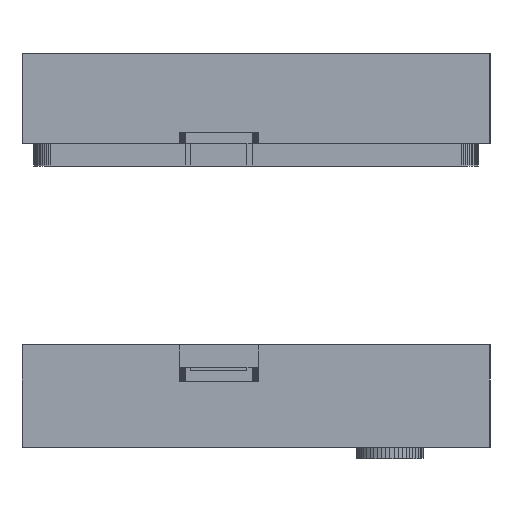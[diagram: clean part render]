
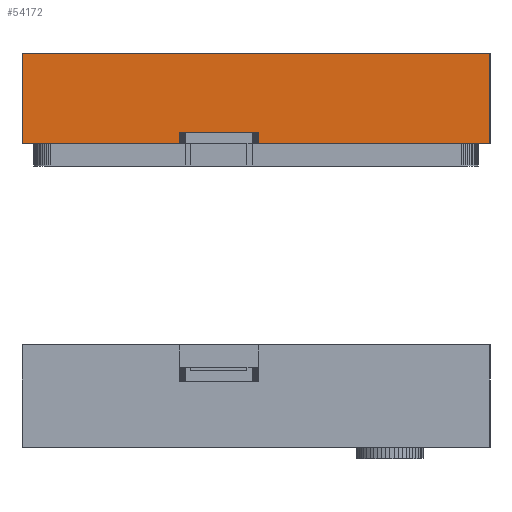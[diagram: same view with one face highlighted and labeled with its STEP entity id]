
A CAD part, left-side view. The second image highlights one B-rep face of the part: STEP entity #54172.
In plain terms, the highlighted planar face has unit normal (-1, 0, 0).
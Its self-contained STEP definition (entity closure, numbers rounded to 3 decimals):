
#54172 = ADVANCED_FACE('',(#54173),#54187,.F.);
#54173 = FACE_BOUND('',#54174,.F.);
#54174 = EDGE_LOOP('',(#54175,#54210,#54238,#54264,#54290,#54316,#54339,
    #54367));
#54175 = ORIENTED_EDGE('',*,*,#54176,.F.);
#54176 = EDGE_CURVE('',#54177,#54179,#54181,.T.);
#54177 = VERTEX_POINT('',#54178);
#54178 = CARTESIAN_POINT('',(0.,0.,54.));
#54179 = VERTEX_POINT('',#54180);
#54180 = CARTESIAN_POINT('',(0.,0.,70.));
#54181 = SURFACE_CURVE('',#54182,(#54186,#54198),.PCURVE_S1.);
#54182 = LINE('',#54183,#54184);
#54183 = CARTESIAN_POINT('',(0.,0.,50.));
#54184 = VECTOR('',#54185,1.);
#54185 = DIRECTION('',(0.,0.,1.));
#54186 = PCURVE('',#54187,#54192);
#54187 = PLANE('',#54188);
#54188 = AXIS2_PLACEMENT_3D('',#54189,#54190,#54191);
#54189 = CARTESIAN_POINT('',(0.,0.,50.));
#54190 = DIRECTION('',(1.,0.,0.));
#54191 = DIRECTION('',(0.,0.,1.));
#54192 = DEFINITIONAL_REPRESENTATION('',(#54193),#54197);
#54193 = LINE('',#54194,#54195);
#54194 = CARTESIAN_POINT('',(0.,0.));
#54195 = VECTOR('',#54196,1.);
#54196 = DIRECTION('',(1.,0.));
#54197 = ( GEOMETRIC_REPRESENTATION_CONTEXT(2) 
PARAMETRIC_REPRESENTATION_CONTEXT() REPRESENTATION_CONTEXT('2D SPACE',''
  ) );
#54198 = PCURVE('',#54199,#54204);
#54199 = PLANE('',#54200);
#54200 = AXIS2_PLACEMENT_3D('',#54201,#54202,#54203);
#54201 = CARTESIAN_POINT('',(0.,0.,50.));
#54202 = DIRECTION('',(0.,1.,0.));
#54203 = DIRECTION('',(0.,0.,1.));
#54204 = DEFINITIONAL_REPRESENTATION('',(#54205),#54209);
#54205 = LINE('',#54206,#54207);
#54206 = CARTESIAN_POINT('',(0.,0.));
#54207 = VECTOR('',#54208,1.);
#54208 = DIRECTION('',(1.,0.));
#54209 = ( GEOMETRIC_REPRESENTATION_CONTEXT(2) 
PARAMETRIC_REPRESENTATION_CONTEXT() REPRESENTATION_CONTEXT('2D SPACE',''
  ) );
#54210 = ORIENTED_EDGE('',*,*,#54211,.T.);
#54211 = EDGE_CURVE('',#54177,#54212,#54214,.T.);
#54212 = VERTEX_POINT('',#54213);
#54213 = CARTESIAN_POINT('',(0.,41.202,54.));
#54214 = SURFACE_CURVE('',#54215,(#54219,#54226),.PCURVE_S1.);
#54215 = LINE('',#54216,#54217);
#54216 = CARTESIAN_POINT('',(0.,0.,54.));
#54217 = VECTOR('',#54218,1.);
#54218 = DIRECTION('',(0.,1.,0.));
#54219 = PCURVE('',#54187,#54220);
#54220 = DEFINITIONAL_REPRESENTATION('',(#54221),#54225);
#54221 = LINE('',#54222,#54223);
#54222 = CARTESIAN_POINT('',(4.,0.));
#54223 = VECTOR('',#54224,1.);
#54224 = DIRECTION('',(0.,-1.));
#54225 = ( GEOMETRIC_REPRESENTATION_CONTEXT(2) 
PARAMETRIC_REPRESENTATION_CONTEXT() REPRESENTATION_CONTEXT('2D SPACE',''
  ) );
#54226 = PCURVE('',#54227,#54232);
#54227 = PLANE('',#54228);
#54228 = AXIS2_PLACEMENT_3D('',#54229,#54230,#54231);
#54229 = CARTESIAN_POINT('',(0.,0.,54.));
#54230 = DIRECTION('',(0.,0.,1.));
#54231 = DIRECTION('',(1.,0.,0.));
#54232 = DEFINITIONAL_REPRESENTATION('',(#54233),#54237);
#54233 = LINE('',#54234,#54235);
#54234 = CARTESIAN_POINT('',(0.,0.));
#54235 = VECTOR('',#54236,1.);
#54236 = DIRECTION('',(0.,1.));
#54237 = ( GEOMETRIC_REPRESENTATION_CONTEXT(2) 
PARAMETRIC_REPRESENTATION_CONTEXT() REPRESENTATION_CONTEXT('2D SPACE',''
  ) );
#54238 = ORIENTED_EDGE('',*,*,#54239,.T.);
#54239 = EDGE_CURVE('',#54212,#54240,#54242,.T.);
#54240 = VERTEX_POINT('',#54241);
#54241 = CARTESIAN_POINT('',(0.,41.202,56.));
#54242 = SURFACE_CURVE('',#54243,(#54247,#54253),.PCURVE_S1.);
#54243 = LINE('',#54244,#54245);
#54244 = CARTESIAN_POINT('',(0.,41.202,53.));
#54245 = VECTOR('',#54246,1.);
#54246 = DIRECTION('',(0.,0.,1.));
#54247 = PCURVE('',#54187,#54248);
#54248 = DEFINITIONAL_REPRESENTATION('',(#54249),#54252);
#54249 = B_SPLINE_CURVE_WITH_KNOTS('',1,(#54250,#54251),.UNSPECIFIED.,
  .F.,.F.,(2,2),(-3.6,3.6),.PIECEWISE_BEZIER_KNOTS.);
#54250 = CARTESIAN_POINT('',(-0.6,-41.202));
#54251 = CARTESIAN_POINT('',(6.6,-41.202));
#54252 = ( GEOMETRIC_REPRESENTATION_CONTEXT(2) 
PARAMETRIC_REPRESENTATION_CONTEXT() REPRESENTATION_CONTEXT('2D SPACE',''
  ) );
#54253 = PCURVE('',#54254,#54259);
#54254 = PLANE('',#54255);
#54255 = AXIS2_PLACEMENT_3D('',#54256,#54257,#54258);
#54256 = CARTESIAN_POINT('',(1.163,41.202,56.));
#54257 = DIRECTION('',(0.,1.,0.));
#54258 = DIRECTION('',(0.,0.,1.));
#54259 = DEFINITIONAL_REPRESENTATION('',(#54260),#54263);
#54260 = B_SPLINE_CURVE_WITH_KNOTS('',1,(#54261,#54262),.UNSPECIFIED.,
  .F.,.F.,(2,2),(-3.6,3.6),.PIECEWISE_BEZIER_KNOTS.);
#54261 = CARTESIAN_POINT('',(-6.6,-1.163));
#54262 = CARTESIAN_POINT('',(0.6,-1.163));
#54263 = ( GEOMETRIC_REPRESENTATION_CONTEXT(2) 
PARAMETRIC_REPRESENTATION_CONTEXT() REPRESENTATION_CONTEXT('2D SPACE',''
  ) );
#54264 = ORIENTED_EDGE('',*,*,#54265,.T.);
#54265 = EDGE_CURVE('',#54240,#54266,#54268,.T.);
#54266 = VERTEX_POINT('',#54267);
#54267 = CARTESIAN_POINT('',(0.,55.198,56.));
#54268 = SURFACE_CURVE('',#54269,(#54273,#54279),.PCURVE_S1.);
#54269 = LINE('',#54270,#54271);
#54270 = CARTESIAN_POINT('',(0.,20.715,56.));
#54271 = VECTOR('',#54272,1.);
#54272 = DIRECTION('',(0.,1.,0.));
#54273 = PCURVE('',#54187,#54274);
#54274 = DEFINITIONAL_REPRESENTATION('',(#54275),#54278);
#54275 = B_SPLINE_CURVE_WITH_KNOTS('',1,(#54276,#54277),.UNSPECIFIED.,
  .F.,.F.,(2,2),(19.088,35.883),
  .PIECEWISE_BEZIER_KNOTS.);
#54276 = CARTESIAN_POINT('',(6.,-39.802));
#54277 = CARTESIAN_POINT('',(6.,-56.598));
#54278 = ( GEOMETRIC_REPRESENTATION_CONTEXT(2) 
PARAMETRIC_REPRESENTATION_CONTEXT() REPRESENTATION_CONTEXT('2D SPACE',''
  ) );
#54279 = PCURVE('',#54280,#54285);
#54280 = PLANE('',#54281);
#54281 = AXIS2_PLACEMENT_3D('',#54282,#54283,#54284);
#54282 = CARTESIAN_POINT('',(-1.737,41.429,56.));
#54283 = DIRECTION('',(0.,0.,-1.));
#54284 = DIRECTION('',(-1.,0.,0.));
#54285 = DEFINITIONAL_REPRESENTATION('',(#54286),#54289);
#54286 = B_SPLINE_CURVE_WITH_KNOTS('',1,(#54287,#54288),.UNSPECIFIED.,
  .F.,.F.,(2,2),(19.088,35.883),
  .PIECEWISE_BEZIER_KNOTS.);
#54287 = CARTESIAN_POINT('',(-1.737,-1.627));
#54288 = CARTESIAN_POINT('',(-1.737,15.168));
#54289 = ( GEOMETRIC_REPRESENTATION_CONTEXT(2) 
PARAMETRIC_REPRESENTATION_CONTEXT() REPRESENTATION_CONTEXT('2D SPACE',''
  ) );
#54290 = ORIENTED_EDGE('',*,*,#54291,.T.);
#54291 = EDGE_CURVE('',#54266,#54292,#54294,.T.);
#54292 = VERTEX_POINT('',#54293);
#54293 = CARTESIAN_POINT('',(0.,55.198,54.));
#54294 = SURFACE_CURVE('',#54295,(#54299,#54305),.PCURVE_S1.);
#54295 = LINE('',#54296,#54297);
#54296 = CARTESIAN_POINT('',(0.,55.198,53.));
#54297 = VECTOR('',#54298,1.);
#54298 = DIRECTION('',(0.,0.,-1.));
#54299 = PCURVE('',#54187,#54300);
#54300 = DEFINITIONAL_REPRESENTATION('',(#54301),#54304);
#54301 = B_SPLINE_CURVE_WITH_KNOTS('',1,(#54302,#54303),.UNSPECIFIED.,
  .F.,.F.,(2,2),(-3.6,3.6),.PIECEWISE_BEZIER_KNOTS.);
#54302 = CARTESIAN_POINT('',(6.6,-55.198));
#54303 = CARTESIAN_POINT('',(-0.6,-55.198));
#54304 = ( GEOMETRIC_REPRESENTATION_CONTEXT(2) 
PARAMETRIC_REPRESENTATION_CONTEXT() REPRESENTATION_CONTEXT('2D SPACE',''
  ) );
#54305 = PCURVE('',#54306,#54311);
#54306 = PLANE('',#54307);
#54307 = AXIS2_PLACEMENT_3D('',#54308,#54309,#54310);
#54308 = CARTESIAN_POINT('',(1.163,55.198,56.));
#54309 = DIRECTION('',(0.,-1.,0.));
#54310 = DIRECTION('',(0.,0.,-1.));
#54311 = DEFINITIONAL_REPRESENTATION('',(#54312),#54315);
#54312 = B_SPLINE_CURVE_WITH_KNOTS('',1,(#54313,#54314),.UNSPECIFIED.,
  .F.,.F.,(2,2),(-3.6,3.6),.PIECEWISE_BEZIER_KNOTS.);
#54313 = CARTESIAN_POINT('',(-0.6,-1.163));
#54314 = CARTESIAN_POINT('',(6.6,-1.163));
#54315 = ( GEOMETRIC_REPRESENTATION_CONTEXT(2) 
PARAMETRIC_REPRESENTATION_CONTEXT() REPRESENTATION_CONTEXT('2D SPACE',''
  ) );
#54316 = ORIENTED_EDGE('',*,*,#54317,.T.);
#54317 = EDGE_CURVE('',#54292,#54318,#54320,.T.);
#54318 = VERTEX_POINT('',#54319);
#54319 = CARTESIAN_POINT('',(0.,83.2,54.));
#54320 = SURFACE_CURVE('',#54321,(#54325,#54332),.PCURVE_S1.);
#54321 = LINE('',#54322,#54323);
#54322 = CARTESIAN_POINT('',(0.,0.,54.));
#54323 = VECTOR('',#54324,1.);
#54324 = DIRECTION('',(0.,1.,0.));
#54325 = PCURVE('',#54187,#54326);
#54326 = DEFINITIONAL_REPRESENTATION('',(#54327),#54331);
#54327 = LINE('',#54328,#54329);
#54328 = CARTESIAN_POINT('',(4.,0.));
#54329 = VECTOR('',#54330,1.);
#54330 = DIRECTION('',(0.,-1.));
#54331 = ( GEOMETRIC_REPRESENTATION_CONTEXT(2) 
PARAMETRIC_REPRESENTATION_CONTEXT() REPRESENTATION_CONTEXT('2D SPACE',''
  ) );
#54332 = PCURVE('',#54227,#54333);
#54333 = DEFINITIONAL_REPRESENTATION('',(#54334),#54338);
#54334 = LINE('',#54335,#54336);
#54335 = CARTESIAN_POINT('',(0.,0.));
#54336 = VECTOR('',#54337,1.);
#54337 = DIRECTION('',(0.,1.));
#54338 = ( GEOMETRIC_REPRESENTATION_CONTEXT(2) 
PARAMETRIC_REPRESENTATION_CONTEXT() REPRESENTATION_CONTEXT('2D SPACE',''
  ) );
#54339 = ORIENTED_EDGE('',*,*,#54340,.T.);
#54340 = EDGE_CURVE('',#54318,#54341,#54343,.T.);
#54341 = VERTEX_POINT('',#54342);
#54342 = CARTESIAN_POINT('',(0.,83.2,70.));
#54343 = SURFACE_CURVE('',#54344,(#54348,#54355),.PCURVE_S1.);
#54344 = LINE('',#54345,#54346);
#54345 = CARTESIAN_POINT('',(0.,83.2,50.));
#54346 = VECTOR('',#54347,1.);
#54347 = DIRECTION('',(0.,0.,1.));
#54348 = PCURVE('',#54187,#54349);
#54349 = DEFINITIONAL_REPRESENTATION('',(#54350),#54354);
#54350 = LINE('',#54351,#54352);
#54351 = CARTESIAN_POINT('',(0.,-83.2));
#54352 = VECTOR('',#54353,1.);
#54353 = DIRECTION('',(1.,0.));
#54354 = ( GEOMETRIC_REPRESENTATION_CONTEXT(2) 
PARAMETRIC_REPRESENTATION_CONTEXT() REPRESENTATION_CONTEXT('2D SPACE',''
  ) );
#54355 = PCURVE('',#54356,#54361);
#54356 = PLANE('',#54357);
#54357 = AXIS2_PLACEMENT_3D('',#54358,#54359,#54360);
#54358 = CARTESIAN_POINT('',(0.,83.2,50.));
#54359 = DIRECTION('',(0.,1.,0.));
#54360 = DIRECTION('',(0.,0.,1.));
#54361 = DEFINITIONAL_REPRESENTATION('',(#54362),#54366);
#54362 = LINE('',#54363,#54364);
#54363 = CARTESIAN_POINT('',(0.,0.));
#54364 = VECTOR('',#54365,1.);
#54365 = DIRECTION('',(1.,0.));
#54366 = ( GEOMETRIC_REPRESENTATION_CONTEXT(2) 
PARAMETRIC_REPRESENTATION_CONTEXT() REPRESENTATION_CONTEXT('2D SPACE',''
  ) );
#54367 = ORIENTED_EDGE('',*,*,#54368,.F.);
#54368 = EDGE_CURVE('',#54179,#54341,#54369,.T.);
#54369 = SURFACE_CURVE('',#54370,(#54374,#54381),.PCURVE_S1.);
#54370 = LINE('',#54371,#54372);
#54371 = CARTESIAN_POINT('',(0.,0.,70.));
#54372 = VECTOR('',#54373,1.);
#54373 = DIRECTION('',(0.,1.,0.));
#54374 = PCURVE('',#54187,#54375);
#54375 = DEFINITIONAL_REPRESENTATION('',(#54376),#54380);
#54376 = LINE('',#54377,#54378);
#54377 = CARTESIAN_POINT('',(20.,0.));
#54378 = VECTOR('',#54379,1.);
#54379 = DIRECTION('',(0.,-1.));
#54380 = ( GEOMETRIC_REPRESENTATION_CONTEXT(2) 
PARAMETRIC_REPRESENTATION_CONTEXT() REPRESENTATION_CONTEXT('2D SPACE',''
  ) );
#54381 = PCURVE('',#54382,#54387);
#54382 = PLANE('',#54383);
#54383 = AXIS2_PLACEMENT_3D('',#54384,#54385,#54386);
#54384 = CARTESIAN_POINT('',(0.,0.,70.));
#54385 = DIRECTION('',(0.,0.,1.));
#54386 = DIRECTION('',(1.,0.,0.));
#54387 = DEFINITIONAL_REPRESENTATION('',(#54388),#54392);
#54388 = LINE('',#54389,#54390);
#54389 = CARTESIAN_POINT('',(0.,0.));
#54390 = VECTOR('',#54391,1.);
#54391 = DIRECTION('',(0.,1.));
#54392 = ( GEOMETRIC_REPRESENTATION_CONTEXT(2) 
PARAMETRIC_REPRESENTATION_CONTEXT() REPRESENTATION_CONTEXT('2D SPACE',''
  ) );
